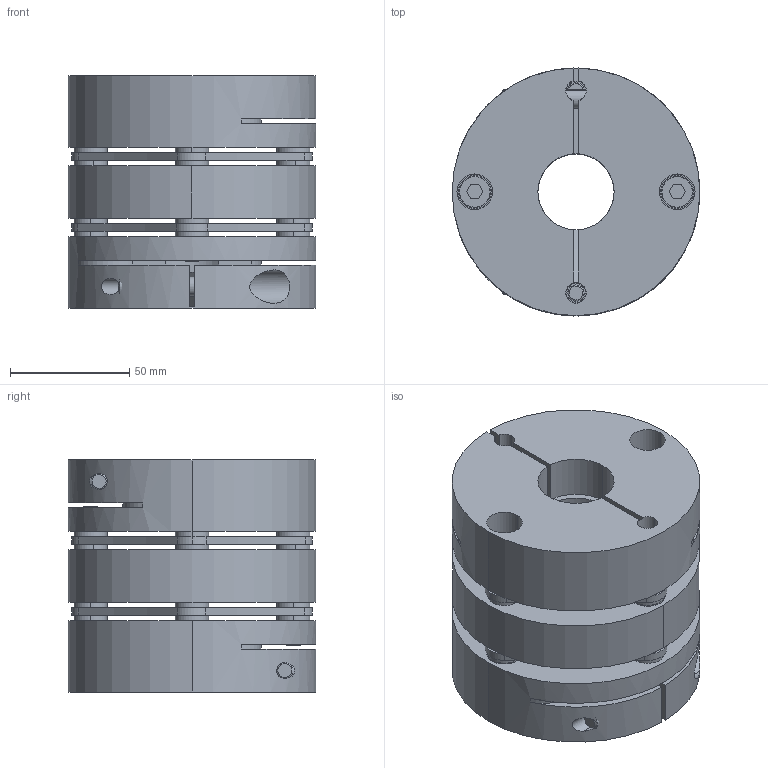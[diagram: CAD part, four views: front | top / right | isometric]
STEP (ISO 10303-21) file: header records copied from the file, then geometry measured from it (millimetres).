
FILE_DESCRIPTION (( 'STEP AP214' ), '1' );
FILE_NAME ('LC-A-100DA-32B-32B.STEP', '2019-09-12T07:22:43', ( 'admin' ), ( 'Microsoft' ), 'SwSTEP 2.0', 'SolidWorks 2016', '' );
FILE_SCHEMA (( 'AUTOMOTIVE_DESIGN' ));
Length unit declared in the file: millimetre
Products named in the file (1): LC-A-100DA-32B-32B
Bounding box: 104 x 104 x 97.42 mm (x, y, z)
Volume: 594966.4 mm3; surface area: 146356.7 mm2
Topology: 31 solids, 31 shells, 490 faces, 1152 edges, 748 vertices
Faces by surface type: cylinder 244, plane 186, torus 40, cone 20
Entity records: 20606 total; most frequent: CARTESIAN_POINT 2931, DIRECTION 2694, ORIENTED_EDGE 2304, EDGE_CURVE 1152, AXIS2_PLACEMENT_3D 1083, VERTEX_POINT 748, EDGE_LOOP 608, CIRCLE 592
